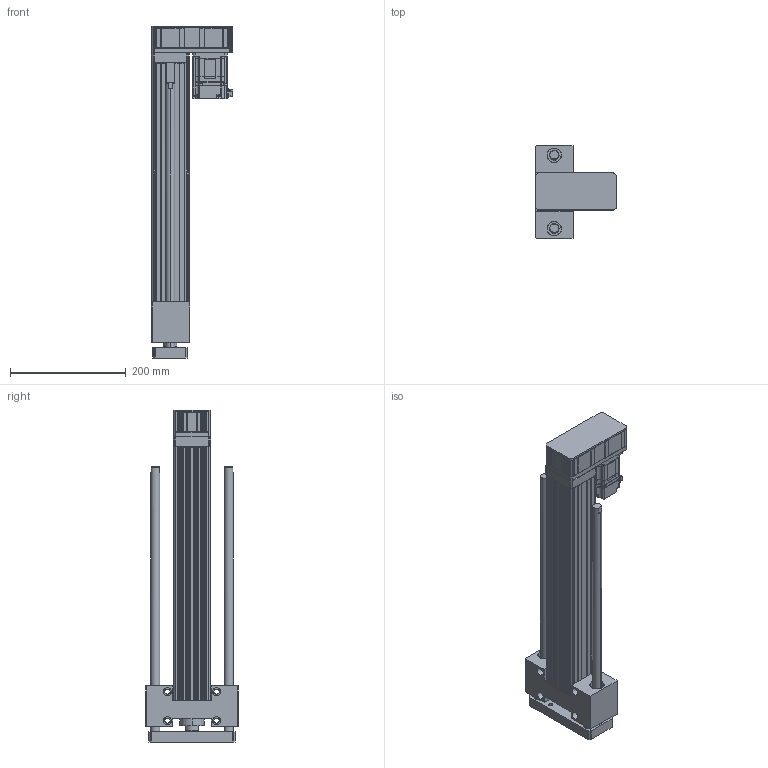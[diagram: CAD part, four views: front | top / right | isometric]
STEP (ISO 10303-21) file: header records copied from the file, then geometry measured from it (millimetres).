
FILE_DESCRIPTION (( 'STEP AP203' ), '1' );
FILE_NAME ('ANS065-HP350-05(10)-W20.STEP', '2019-03-01T05:52:48', ( 'user' ), ( '' ), 'SwSTEP 2.0', 'SolidWorks 2013', '' );
FILE_SCHEMA (( 'CONFIG_CONTROL_DESIGN' ));
Length unit declared in the file: millimetre
Products named in the file (4): ANS065 HP350 VER2; ANS065 ROD ST350 G; sgmjv_02a_a21; ANS065-HP350-05(10)-W20
Assembly tree (3 placements, depth 2):
  ANS065-HP350-05(10)-W20
    ANS065 HP350 VER2
    ANS065 ROD ST350 G
    sgmjv_02a_a21
Bounding box: 140.3 x 160 x 574.5 mm (x, y, z)
Volume: 2280819 mm3; surface area: 557125.7 mm2
Topology: 3 solids, 7 shells, 1458 faces, 3875 edges, 2502 vertices
Faces by surface type: plane 896, cylinder 452, cone 110
Entity records: 45387 total; most frequent: CARTESIAN_POINT 8127, ORIENTED_EDGE 7710, DIRECTION 7657, EDGE_CURVE 3855, VECTOR 2793, LINE 2793, VERTEX_POINT 2502, AXIS2_PLACEMENT_3D 2432
